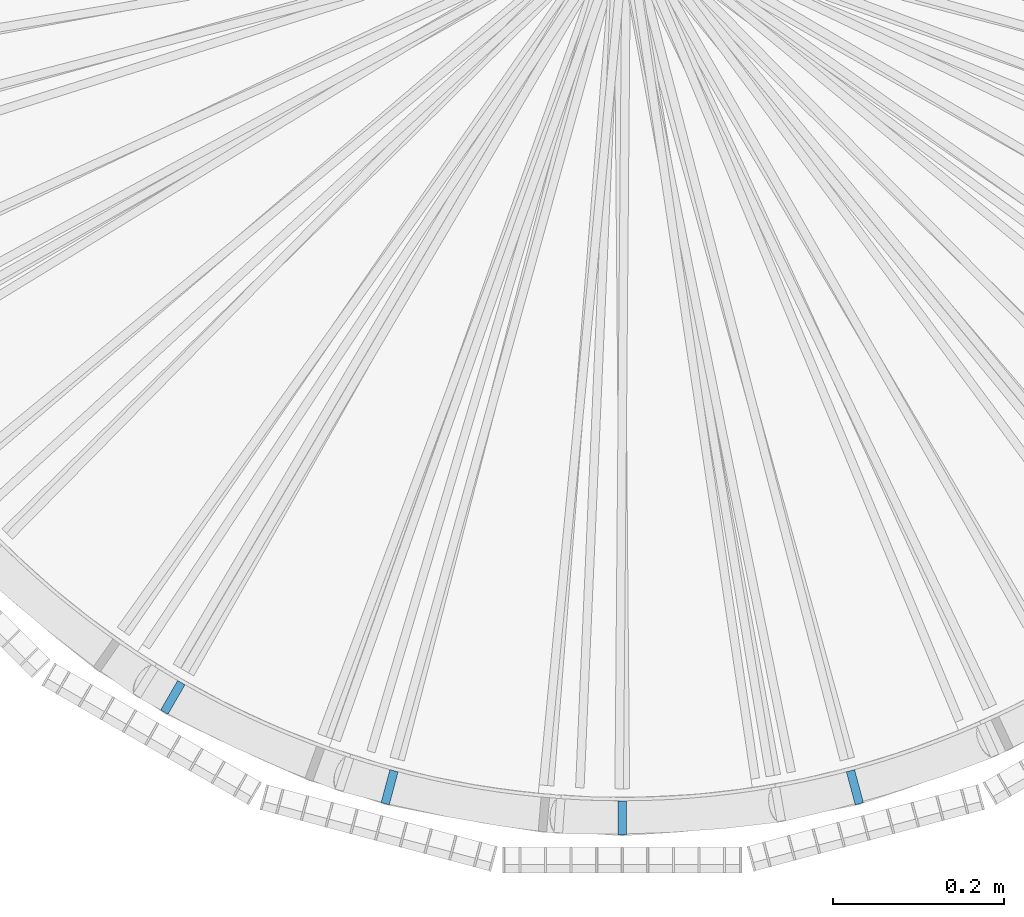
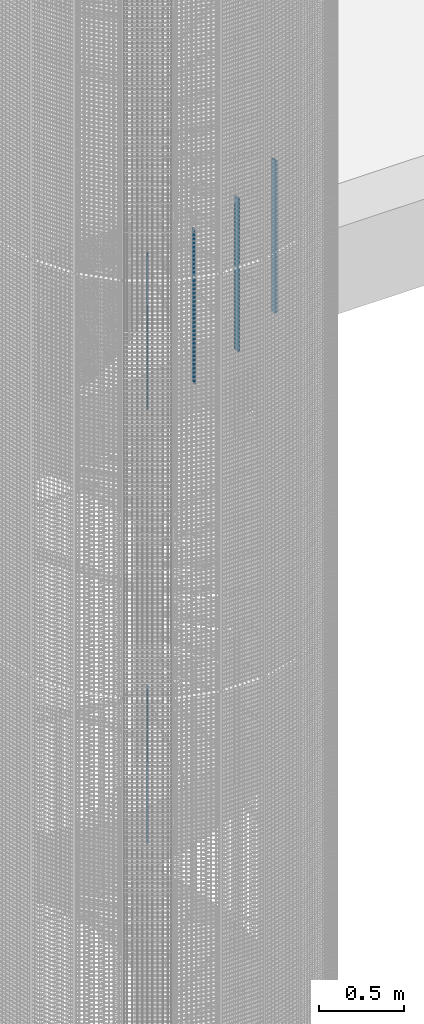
# One storey, part 5 of 1148: 5 columns, 5 elements without a shape of their own.
"""IFC2X3 building model written with IfcOpenShell, lengths in millimetres."""

from ifc_helpers import new_model, si_unit, frame, origin_with_axes, origin_2d_with_axis, place, context, subcontext, project, spatial, rectangle, extrude, material, type_object, element, aggregate, save


model = new_model("IFC2X3")

# Units and contexts
model_context = context("Model", 3, precision=1e-05, world=origin_with_axes())
body_context = subcontext(model_context, "Body", "Model", "MODEL_VIEW")
ifc_project = project(units=[si_unit("LENGTHUNIT", "METRE", prefix="MILLI"), si_unit("AREAUNIT", "SQUARE_METRE"), si_unit("VOLUMEUNIT", "CUBIC_METRE"), si_unit("MASSUNIT", "GRAM", prefix="KILO"), si_unit("TIMEUNIT", "SECOND"), si_unit("PLANEANGLEUNIT", "RADIAN"), si_unit("SOLIDANGLEUNIT", "STERADIAN"), si_unit("THERMODYNAMICTEMPERATUREUNIT", "DEGREE_CELSIUS"), si_unit("LUMINOUSINTENSITYUNIT", "LUMEN")], contexts=[model_context])

# Site, building, storey
site_placement = place(None, origin_with_axes())
site = spatial("IfcSite", under=ifc_project, at=site_placement, Name="Undefined", CompositionType="ELEMENT")
building_placement = place(site_placement, origin_with_axes())
building = spatial("IfcBuilding", under=site, at=building_placement, Name="Undefined", CompositionType="ELEMENT")
storey_placement = place(building_placement, origin_with_axes())
storey = spatial("IfcBuildingStorey", under=building, at=storey_placement, Name="Undefined", CompositionType="ELEMENT", Elevation=0.0)

# Assembly, column
assembly_1_placement = place(storey_placement, origin_with_axes())
assembly_1 = element("IfcElementAssembly", 1, at=assembly_1_placement, inside=storey, Name="MONTANT", AssemblyPlace="NOTDEFINED", PredefinedType="NOTDEFINED")
ifc_material = material(Name="STEEL/S235JR")
column_type = type_object("IfcColumnType", Name="PL10*40", PredefinedType="NOTDEFINED")
column_1_placement = place(assembly_1_placement, frame((-2.27373675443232e-13, -1053.99999999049, 8368.24000000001), z_axis=(0.0, 0.0, 1.0), x_axis=(0.0, 1.0, 0.0)))
column_1 = element("IfcColumn", 2, at=column_1_placement, type_object=column_type, material=ifc_material, Name="MONTANT", context=body_context, shape_type="SweptSolid", body=[
    extrude(rectangle(XDim=10.0, YDim=40.0, at=origin_2d_with_axis()), frame((0.0, 0.0, 1100.0), z_axis=(0.0, 0.0, -1.0), x_axis=(0.0, 1.0, 0.0)), (0.0, 0.0, 1.0), 1100.0),
])
aggregate(assembly_1, [column_1])

assembly_2_placement = place(storey_placement, origin_with_axes())
assembly_2 = element("IfcElementAssembly", 3, at=assembly_2_placement, inside=storey, Name="MONTANT", AssemblyPlace="NOTDEFINED", PredefinedType="NOTDEFINED")
column_2_placement = place(assembly_2_placement, frame((-272.795273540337, -1018.08582091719, 8211.72), z_axis=(0.0, 0.0, 1.0), x_axis=(0.258819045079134, 0.965925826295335, 0.0)))
column_2 = element("IfcColumn", 4, at=column_2_placement, type_object=column_type, material=ifc_material, Name="MONTANT", context=body_context, shape_type="SweptSolid", body=[
    extrude(rectangle(XDim=10.0, YDim=40.0, at=origin_2d_with_axis()), frame((0.0, 0.0, 1100.0), z_axis=(0.0, 0.0, -1.0), x_axis=(0.0, 1.0, 0.0)), (0.0, 0.0, 1.0), 1100.0),
])
aggregate(assembly_2, [column_2])

assembly_3_placement = place(storey_placement, origin_with_axes())
assembly_3 = element("IfcElementAssembly", 5, at=assembly_3_placement, inside=storey, Name="MONTANT", AssemblyPlace="NOTDEFINED", PredefinedType="NOTDEFINED")
column_3_placement = place(assembly_3_placement, frame((-527.000000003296, -912.790775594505, 8055.2), z_axis=(0.0, 0.0, 1.0), x_axis=(0.49999999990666, 0.866025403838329, 0.0)))
column_3 = element("IfcColumn", 6, at=column_3_placement, type_object=column_type, material=ifc_material, Name="MONTANT", context=body_context, shape_type="SweptSolid", body=[
    extrude(rectangle(XDim=10.0, YDim=40.0, at=origin_2d_with_axis()), frame((0.0, 0.0, 1100.0), z_axis=(0.0, 0.0, -1.0), x_axis=(0.0, 1.0, 0.0)), (0.0, 0.0, 1.0), 1100.0),
])
aggregate(assembly_3, [column_3])

assembly_4_placement = place(storey_placement, origin_with_axes())
assembly_4 = element("IfcElementAssembly", 7, at=assembly_4_placement, inside=storey, Name="MONTANT", AssemblyPlace="NOTDEFINED", PredefinedType="NOTDEFINED")
column_4_placement = place(assembly_4_placement, frame((272.795273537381, -1018.08582090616, 8524.76000000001), z_axis=(0.0, 0.0, 1.0), x_axis=(-0.258819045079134, 0.965925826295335, 0.0)))
column_4 = element("IfcColumn", 8, at=column_4_placement, type_object=column_type, material=ifc_material, Name="MONTANT", context=body_context, shape_type="SweptSolid", body=[
    extrude(rectangle(XDim=10.0, YDim=40.0, at=origin_2d_with_axis()), frame((0.0, 0.0, 1100.0), z_axis=(0.0, 0.0, -1.0), x_axis=(0.0, 1.0, 0.0)), (0.0, 0.0, 1.0), 1100.0),
])
aggregate(assembly_4, [column_4])

assembly_5_placement = place(storey_placement, origin_with_axes())
assembly_5 = element("IfcElementAssembly", 9, at=assembly_5_placement, inside=storey, Name="MONTANT", AssemblyPlace="NOTDEFINED", PredefinedType="NOTDEFINED")
column_5_placement = place(assembly_5_placement, frame((-526.999999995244, -912.790775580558, 4944.64), z_axis=(0.0, 0.0, 1.0), x_axis=(0.49999999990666, 0.866025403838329, 0.0)))
column_5 = element("IfcColumn", 10, at=column_5_placement, type_object=column_type, material=ifc_material, Name="MONTANT", context=body_context, shape_type="SweptSolid", body=[
    extrude(rectangle(XDim=10.0, YDim=40.0, at=origin_2d_with_axis()), frame((0.0, 0.0, 1100.0), z_axis=(0.0, 0.0, -1.0), x_axis=(0.0, 1.0, 0.0)), (0.0, 0.0, 1.0), 1100.0),
])
aggregate(assembly_5, [column_5])

save(model, "model.ifc")
